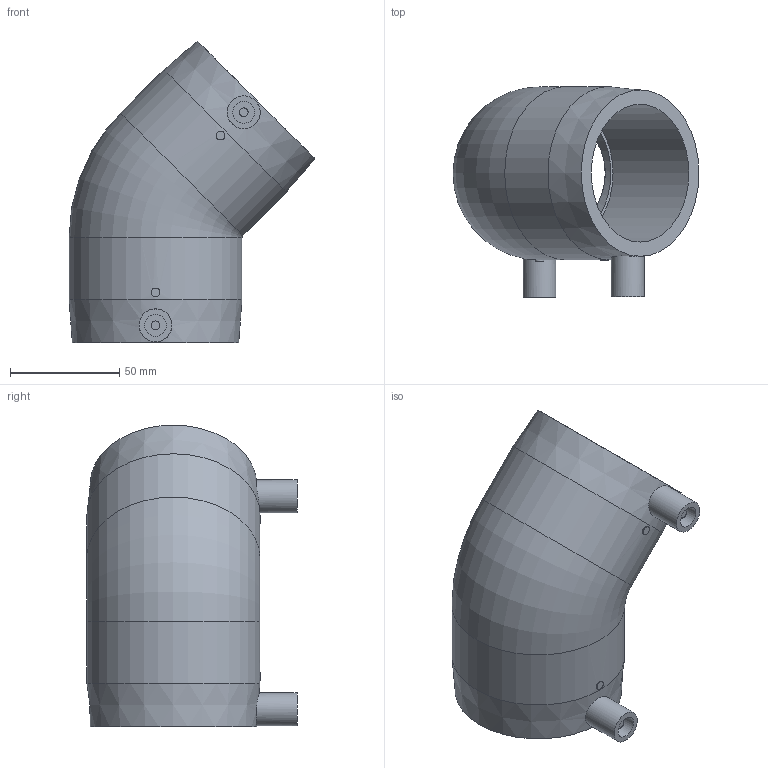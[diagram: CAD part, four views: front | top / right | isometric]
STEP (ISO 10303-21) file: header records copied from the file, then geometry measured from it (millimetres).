
FILE_DESCRIPTION(/* description */ ('Unknown'),/* implementation_level */ '2;1');
FILE_NAME(/* name */ 'GE4P063C',/* time_stamp */ '2021-01-25T14:47:01+01:00',/* author */ ('Unknown'),/* organization */ ('Unknown'),/* preprocessor_version */ 'ST-DEVELOPER v16.7',/* originating_system */ 'Solid Edge',/* authorisation */ 'Unknown');
FILE_SCHEMA (('AUTOMOTIVE_DESIGN {1 0 10303 214 3 1 1}'));
Length unit declared in the file: millimetre
Products named in the file (1): GE4P063C
Bounding box: 112.33 x 96 x 137.83 mm (x, y, z)
Volume: 234767.2 mm3; surface area: 63342.6 mm2
Topology: 1 solids, 1 shells, 30 faces, 54 edges, 36 vertices
Faces by surface type: cylinder 14, plane 12, cone 2, torus 2
Full cylindrical faces by diameter (mm): 4 x4, 10 x2, 15 x2, 63 x2, 79 x2
Entity records: 761 total; most frequent: CARTESIAN_POINT 213, DIRECTION 112, ORIENTED_EDGE 70, EDGE_LOOP 57, FACE_BOUND 57, AXIS2_PLACEMENT_3D 56, EDGE_CURVE 35, VERTEX_POINT 32
